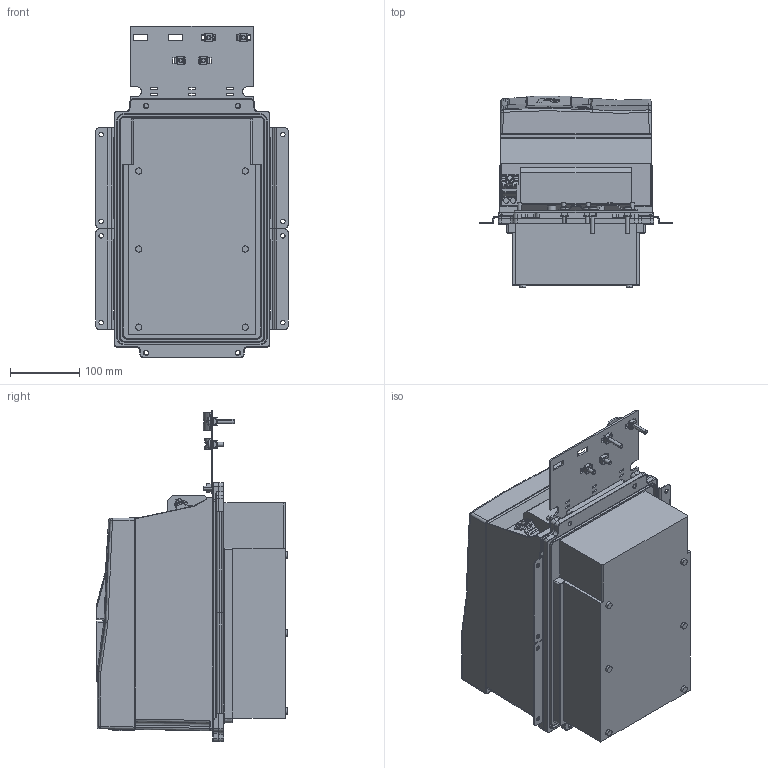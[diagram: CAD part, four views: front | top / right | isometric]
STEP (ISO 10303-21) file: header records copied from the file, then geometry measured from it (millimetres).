
FILE_DESCRIPTION (( 'STEP AP214' ), '1' );
FILE_NAME ('F6-4TR5-P051.STEP', '2020-12-08T13:24:35', ( '' ), ( '' ), 'SwSTEP 2.0', 'SolidWorks 2019', '' );
FILE_SCHEMA (( 'AUTOMOTIVE_DESIGN' ));
Length unit declared in the file: millimetre
Products named in the file (13): 10061644_000_Deckel (Kundenmodell); 10061787_000; 10059765_000; 10063070_000; 10061645_000; F6-4TR5-P051; 10059764_000_Blindabdeckung (Kundenmodell); 10045811_000_Leistungsteil TR5 (Kundenmodell); 10058448_000; 10044453_000_Schirmung (Kundenmodell); 10051076_000_Kundenmodell; 10032600_000_Kundenmodell; 10059762_000_Kundenmodell mit Geberbuchsen
Assembly tree (12 placements, depth 4):
  F6-4TR5-P051
    10045811_000_Leistungsteil TR5 (Kundenmodell)
      10061787_000
    10032600_000_Kundenmodell
      10061644_000_Deckel (Kundenmodell)
        10061645_000
      10058448_000
    10051076_000_Kundenmodell
      10059764_000_Blindabdeckung (Kundenmodell)
        10059765_000
      10059762_000_Kundenmodell mit Geberbuchsen
    10044453_000_Schirmung (Kundenmodell)
      10063070_000
Bounding box: 277 x 276.2 x 477.5 mm (x, y, z)
Volume: 17537551.6 mm3; surface area: 952363.4 mm2
Topology: 15 solids, 36 shells, 3340 faces, 8838 edges, 5578 vertices
Faces by surface type: plane 1483, cylinder 962, bspline 547, torus 166, cone 134, sphere 48
Entity records: 126143 total; most frequent: CARTESIAN_POINT 46090, ORIENTED_EDGE 17558, DIRECTION 15238, EDGE_CURVE 8779, VERTEX_POINT 5576, AXIS2_PLACEMENT_3D 5133, LINE 4972, VECTOR 4972
